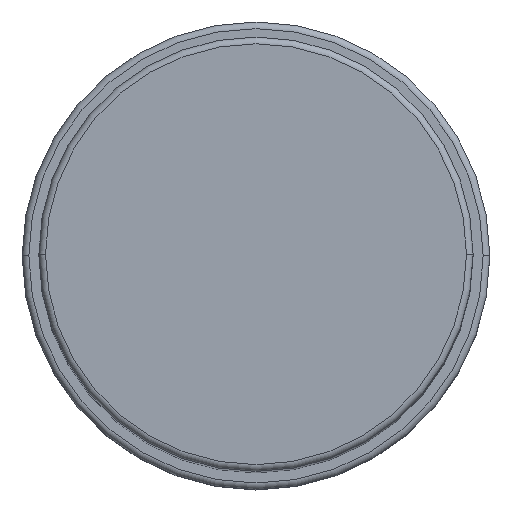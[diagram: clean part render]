
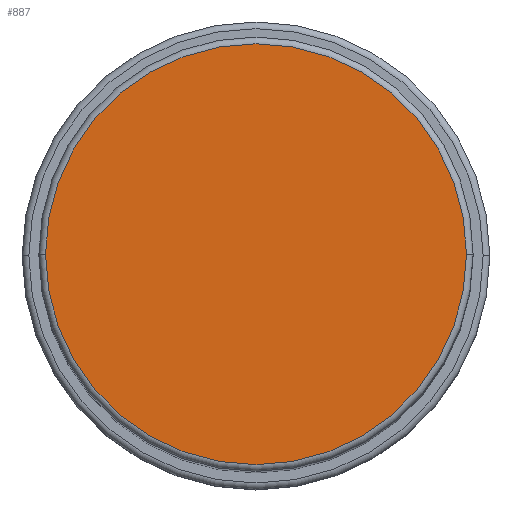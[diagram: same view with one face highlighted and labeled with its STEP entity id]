
A CAD part, top view. The second image highlights one B-rep face of the part: STEP entity #887.
In plain terms, the highlighted planar face has unit normal (0, 0, 1).
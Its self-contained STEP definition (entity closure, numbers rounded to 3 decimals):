
#4 = CARTESIAN_POINT ( 'NONE',  ( 0., 0., 153. ) ) ;
#60 = CARTESIAN_POINT ( 'NONE',  ( 31.5, 0., 153. ) ) ;
#67 = EDGE_CURVE ( 'NONE', #1576, #825, #636, .T. ) ;
#251 = AXIS2_PLACEMENT_3D ( 'NONE', #1008, #620, #1528 ) ;
#253 = DIRECTION ( 'NONE',  ( 0., 0., 1. ) ) ;
#374 = ORIENTED_EDGE ( 'NONE', *, *, #67, .T. ) ;
#609 = CIRCLE ( 'NONE', #251, 31.5 ) ;
#620 = DIRECTION ( 'NONE',  ( 0., 0., 1. ) ) ;
#636 = CIRCLE ( 'NONE', #656, 31.5 ) ;
#656 = AXIS2_PLACEMENT_3D ( 'NONE', #4, #253, #1144 ) ;
#697 = ORIENTED_EDGE ( 'NONE', *, *, #1234, .T. ) ;
#702 = CARTESIAN_POINT ( 'NONE',  ( 0., 0., 153. ) ) ;
#825 = VERTEX_POINT ( 'NONE', #60 ) ;
#826 = CARTESIAN_POINT ( 'NONE',  ( -31.5, 0., 153. ) ) ;
#830 = DIRECTION ( 'NONE',  ( 1., 0., 0. ) ) ;
#887 = ADVANCED_FACE ( 'NONE', ( #1011 ), #1202, .T. ) ;
#988 = AXIS2_PLACEMENT_3D ( 'NONE', #702, #1452, #830 ) ;
#1008 = CARTESIAN_POINT ( 'NONE',  ( 0., 0., 153. ) ) ;
#1011 = FACE_OUTER_BOUND ( 'NONE', #1277, .T. ) ;
#1144 = DIRECTION ( 'NONE',  ( 1., 0., 0. ) ) ;
#1202 = PLANE ( 'NONE',  #988 ) ;
#1234 = EDGE_CURVE ( 'NONE', #825, #1576, #609, .T. ) ;
#1277 = EDGE_LOOP ( 'NONE', ( #697, #374 ) ) ;
#1452 = DIRECTION ( 'NONE',  ( 0., 0., 1. ) ) ;
#1528 = DIRECTION ( 'NONE',  ( 1., 0., 0. ) ) ;
#1576 = VERTEX_POINT ( 'NONE', #826 ) ;
